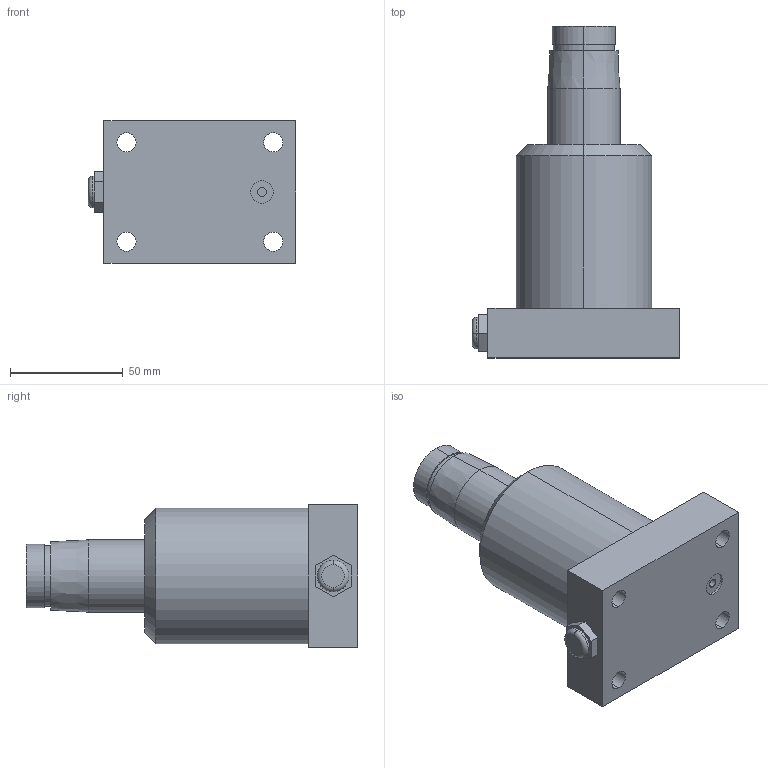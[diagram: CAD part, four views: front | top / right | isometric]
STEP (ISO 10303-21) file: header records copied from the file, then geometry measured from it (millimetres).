
FILE_DESCRIPTION (( 'STEP AP214' ), '1' );
FILE_NAME ('#HPS-40SC.STEP', '2021-10-18T02:01:31', ( '' ), ( '' ), 'SwSTEP 2.0', 'SolidWorks 2016', '' );
FILE_SCHEMA (( 'AUTOMOTIVE_DESIGN' ));
Length unit declared in the file: millimetre
Products named in the file (1): #HPS-40SC
Bounding box: 92 x 147 x 63 mm (x, y, z)
Volume: 354211.5 mm3; surface area: 38536.3 mm2
Topology: 1 solids, 2 shells, 53 faces, 118 edges, 75 vertices
Faces by surface type: cylinder 24, plane 21, cone 6, torus 2
Entity records: 1584 total; most frequent: DIRECTION 280, CARTESIAN_POINT 245, ORIENTED_EDGE 232, EDGE_CURVE 116, AXIS2_PLACEMENT_3D 110, VERTEX_POINT 75, EDGE_LOOP 69, LINE 60
